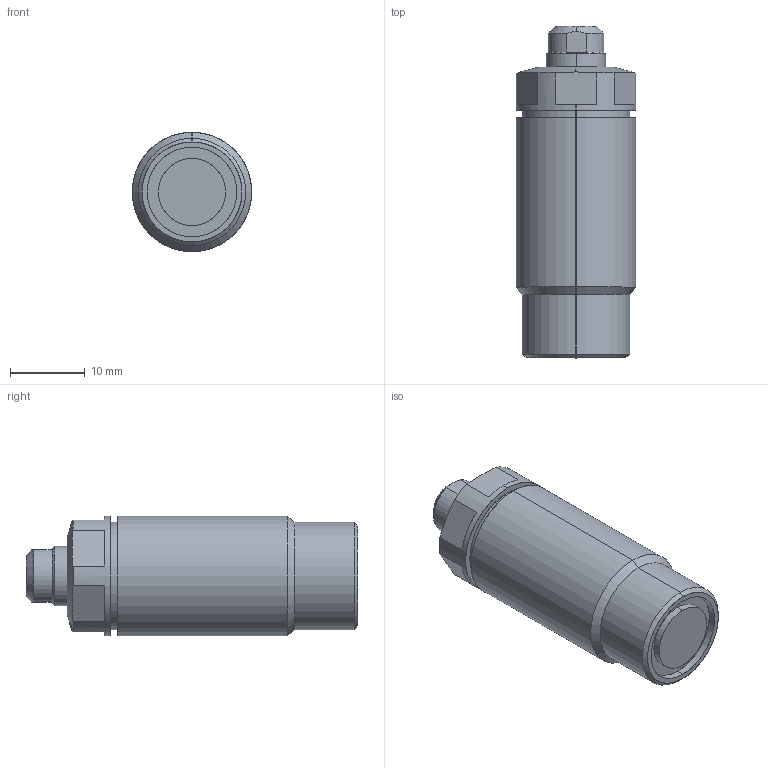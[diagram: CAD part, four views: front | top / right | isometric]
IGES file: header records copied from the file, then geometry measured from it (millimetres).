
Start section: SolidWorks IGES file using analytic representation for surfaces
Global section: file name: D:\karuppas\Clasp\3D model\Thread body cylinder\T03C-M160- M threaded pusher\T03C-M160 M threaded pusher.IGS; native system: SolidWorks 2017; preprocessor: SolidWorks 2017; author: pc; date: 220709.230416; units: millimetre
Bounding box: 16 x 44.5 x 16 mm (x, y, z)
Surface area: 3727.9 mm2 (no closed solid volume)
Topology: 0 solids, 0 shells, 233 faces, 2661 edges, 2659 vertices
Faces by surface type: bspline 200, revolution 33
